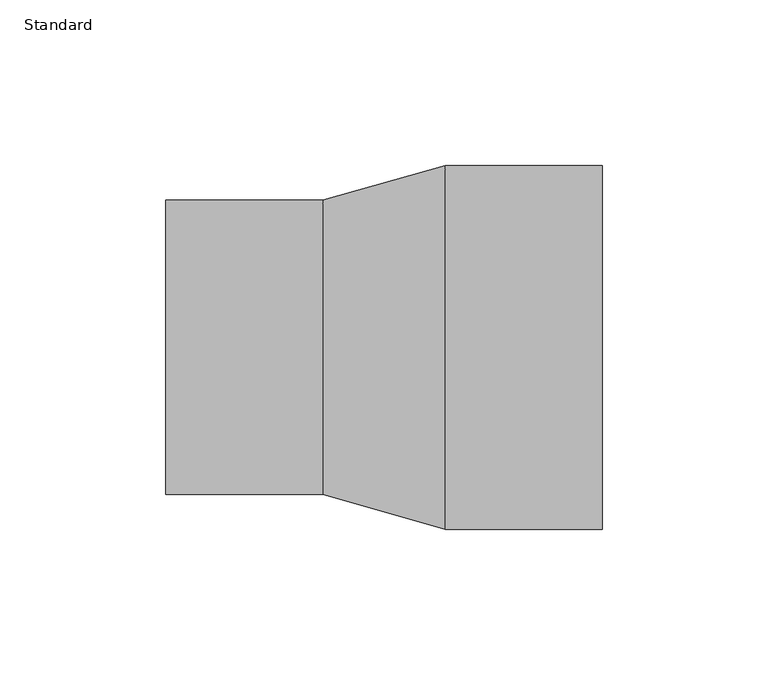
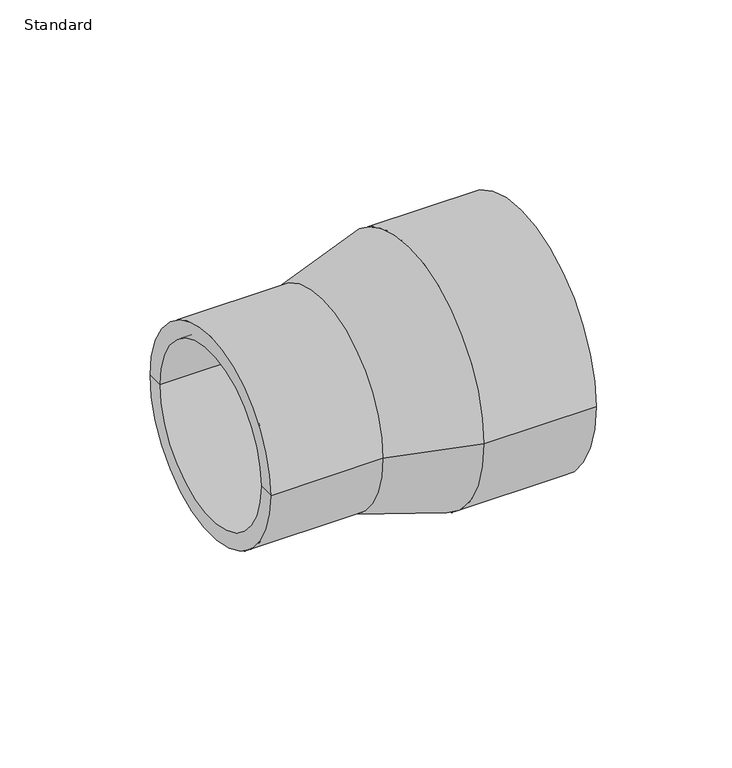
"""IFC4 building model written with IfcOpenShell, lengths in millimetres: pipe fitting geometry, Durapipe_PipeFitting_PVC_Reducers : Standard."""

from ifc_helpers import new_model, si_unit, frame, origin, place, context, project, spatial, polyline, circle_curve, source, transform, mapped, element, save
from ifc_brep_helpers import plane_surface, cylinder_surface, revolved_surface, advanced_brep


def standard_19ee6f34(model_context):
    return source(origin(), model_context, "Body", "AdvancedBrep", [
        advanced_brep(
        [(-66.0, -44.5, 0.0), (-66.0, 44.5, 0.0), (-18.5, 44.5, 0.0), (-18.5, -44.5, 0.0), (-66.0, -37.5, 0.0), (-66.0, 37.5, 0.0), (66.0, -55.0, 0.0), (66.0, 55.0, 0.0), (66.0, 45.0, 0.0), (66.0, -45.0, 0.0), (18.5, -55.0, 0.0), (18.5, 55.0, 0.0), (-18.5, -37.5, 0.0), (-18.5, 37.5, 0.0), (-18.5, 0.0, 0.0), (18.5, -45.0, 0.0), (18.5, 45.0, 0.0), (18.5, 0.0, 0.0)],
        [
            (0, 1, circle_curve(frame((-66.0, 0.0, 0.0), z_axis=(1.0, 0.0, 0.0), x_axis=(0.0, 1.0, 0.0)), 44.5)),
            (1, 2),
            (2, 3, circle_curve(frame((-18.5, 0.0, 0.0), z_axis=(-1.0, 0.0, 0.0), x_axis=(0.0, 1.0, 0.0)), 44.5)),
            (3, 0),
            (1, 0, circle_curve(frame((-66.0, 0.0, 0.0), z_axis=(1.0, 0.0, 0.0), x_axis=(0.0, 1.0, 0.0)), 44.5)),
            (3, 2, circle_curve(frame((-18.5, 0.0, 0.0), z_axis=(-1.0, 0.0, 0.0), x_axis=(0.0, 1.0, 0.0)), 44.5)),
            (4, 5, circle_curve(frame((-66.0, 0.0, 0.0), z_axis=(1.0, 0.0, 0.0), x_axis=(0.0, 1.0, 0.0)), 37.5)),
            (5, 1),
            (0, 4),
            (5, 4, circle_curve(frame((-66.0, 0.0, 0.0), z_axis=(1.0, 0.0, 0.0), x_axis=(0.0, 1.0, 0.0)), 37.5)),
            (6, 7, circle_curve(frame((66.0, 0.0, 0.0), z_axis=(1.0, 0.0, 0.0), x_axis=(0.0, 1.0, 0.0)), 55.0)),
            (7, 8),
            (8, 9, circle_curve(frame((66.0, 0.0, 0.0), z_axis=(-1.0, 0.0, 0.0), x_axis=(0.0, 1.0, 0.0)), 45.0)),
            (9, 6),
            (7, 6, circle_curve(frame((66.0, 0.0, 0.0), z_axis=(1.0, 0.0, 0.0), x_axis=(0.0, 1.0, 0.0)), 55.0)),
            (9, 8, circle_curve(frame((66.0, 0.0, 0.0), z_axis=(-1.0, 0.0, 0.0), x_axis=(0.0, 1.0, 0.0)), 45.0)),
            (10, 11, circle_curve(frame((18.5, 0.0, 0.0), z_axis=(1.0, 0.0, 0.0), x_axis=(0.0, 1.0, 0.0)), 55.0)),
            (11, 7),
            (6, 10),
            (11, 10, circle_curve(frame((18.5, 0.0, 0.0), z_axis=(1.0, 0.0, 0.0), x_axis=(0.0, 1.0, 0.0)), 55.0)),
            (2, 11),
            (10, 3),
            (12, 13, circle_curve(frame((-18.5, 0.0, 0.0), z_axis=(1.0, 0.0, 0.0), x_axis=(0.0, 1.0, 0.0)), 37.5)),
            (13, 5),
            (4, 12),
            (13, 12, circle_curve(frame((-18.5, 0.0, 0.0), z_axis=(1.0, 0.0, 0.0), x_axis=(0.0, 1.0, 0.0)), 37.5)),
            (14, 13),
            (12, 14),
            (15, 16, circle_curve(frame((18.5, 0.0, 0.0), z_axis=(1.0, 0.0, 0.0), x_axis=(0.0, 1.0, 0.0)), 45.0)),
            (16, 17),
            (17, 15),
            (16, 15, circle_curve(frame((18.5, 0.0, 0.0), z_axis=(1.0, 0.0, 0.0), x_axis=(0.0, 1.0, 0.0)), 45.0)),
            (8, 16),
            (15, 9),
        ],
        [
            cylinder_surface(frame((-66.0, 0.0, 0.0), z_axis=(-1.0, 0.0, 0.0), x_axis=(0.0, 1.0, 0.0)), 44.5),
            plane_surface(frame((-66.0, 0.0, 0.0), z_axis=(-1.0, 0.0, 0.0), x_axis=(0.0, 1.0, 0.0))),
            plane_surface(frame((66.0, 0.0, 0.0), z_axis=(1.0, 0.0, 0.0), x_axis=(0.0, 1.0, 0.0))),
            cylinder_surface(frame((-66.0, 0.0, 0.0), z_axis=(-1.0, 0.0, 0.0), x_axis=(0.0, 1.0, 0.0)), 55.0),
            revolved_surface(polyline([(18.5, 55.0, 0.0), (-18.5, 44.5, 0.0)]), (-66.0, 0.0, 0.0), (-1.0, 0.0, 0.0)),
            revolved_surface(polyline([(-66.0, 37.5, 0.0), (-18.5, 37.5, 0.0)]), (-66.0, 0.0, 0.0), (-1.0, 0.0, 0.0)),
            plane_surface(frame((-18.5, 0.0, 0.0), z_axis=(-1.0, 0.0, 0.0), x_axis=(0.0, 1.0, 0.0))),
            plane_surface(frame((18.5, 0.0, 0.0), z_axis=(1.0, 0.0, 0.0), x_axis=(0.0, 1.0, 0.0))),
            revolved_surface(polyline([(18.5, 45.0, 0.0), (66.0, 45.0, 0.0)]), (-66.0, 0.0, 0.0), (-1.0, 0.0, 0.0)),
        ],
        [
            (0, [[1, 2, 3, 4]]),
            (0, [[5, -4, 6, -2]]),
            (1, [[7, 8, -1, 9]]),
            (1, [[10, -9, -5, -8]]),
            (2, [[11, 12, 13, 14]]),
            (2, [[15, -14, 16, -12]]),
            (3, [[17, 18, -11, 19]]),
            (3, [[20, -19, -15, -18]]),
            (4, [[-3, 21, -17, 22]]),
            (4, [[-6, -22, -20, -21]]),
            (5, [[23, 24, -7, 25]]),
            (5, [[26, -25, -10, -24]]),
            (6, [[27, -23, 28]]),
            (6, [[-28, -26, -27]]),
            (7, [[29, 30, 31]]),
            (7, [[32, -31, -30]]),
            (8, [[-13, 33, -29, 34]]),
            (8, [[-16, -34, -32, -33]]),
        ],
    ),
    ])


if __name__ == "__main__":
    model = new_model("IFC4")
    model_context = context("Model", 3, world=origin())
    ifc_project = project(units=[si_unit("LENGTHUNIT", "METRE", prefix="MILLI")], contexts=[model_context])
    site = spatial("IfcSite", under=ifc_project)
    building = spatial("IfcBuilding", under=site)
    placement = place(None, origin())
    standard_shape = standard_19ee6f34(model_context)
    element("IfcPipeFitting", 1, ObjectType="Durapipe_PipeFitting_PVC_Reducers : Standard", at=placement, inside=building, context=model_context, shape_type="MappedRepresentation", body=[
        mapped(standard_shape, transform((0.0, 0.0, 0.0), x_axis=(1.0, 0.0, 0.0), y_axis=(0.0, 1.0, 0.0), z_axis=(0.0, 0.0, 1.0))),
    ])
    save(model, "model.ifc")
